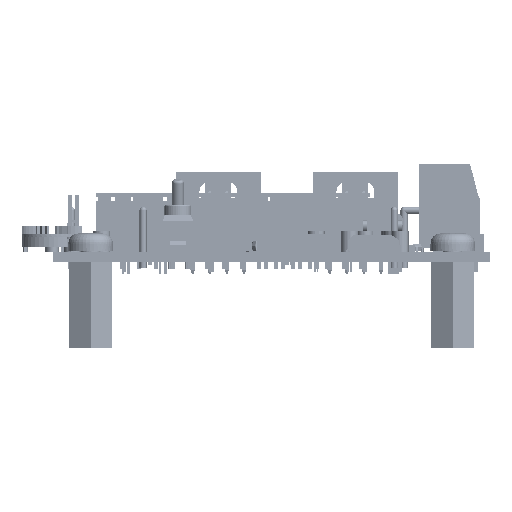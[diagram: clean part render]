
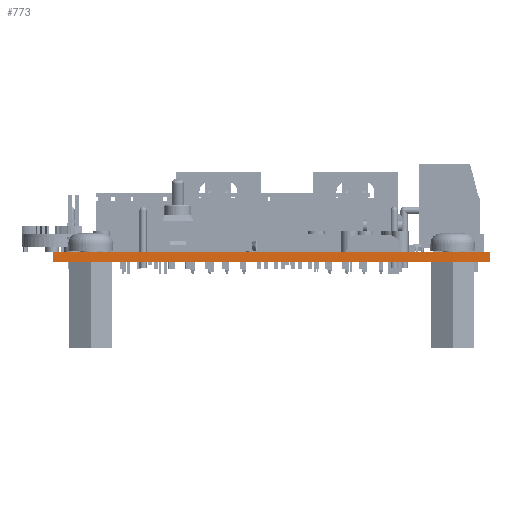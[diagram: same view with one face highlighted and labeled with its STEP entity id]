
A CAD part, left-side view. The second image highlights one B-rep face of the part: STEP entity #773.
In plain terms, the highlighted planar face has unit normal (-1, 0, 0).
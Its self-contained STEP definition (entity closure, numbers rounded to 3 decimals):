
#773 = ADVANCED_FACE('',(#774),#808,.T.);
#774 = FACE_BOUND('',#775,.T.);
#775 = EDGE_LOOP('',(#776,#786,#794,#802));
#776 = ORIENTED_EDGE('',*,*,#777,.T.);
#777 = EDGE_CURVE('',#778,#780,#782,.T.);
#778 = VERTEX_POINT('',#779);
#779 = CARTESIAN_POINT('',(0.032,0.,0.));
#780 = VERTEX_POINT('',#781);
#781 = CARTESIAN_POINT('',(0.032,0.,1.585));
#782 = LINE('',#783,#784);
#783 = CARTESIAN_POINT('',(0.032,0.,0.));
#784 = VECTOR('',#785,1.);
#785 = DIRECTION('',(0.,0.,1.));
#786 = ORIENTED_EDGE('',*,*,#787,.T.);
#787 = EDGE_CURVE('',#780,#788,#790,.T.);
#788 = VERTEX_POINT('',#789);
#789 = CARTESIAN_POINT('',(0.032,64.77,1.585));
#790 = LINE('',#791,#792);
#791 = CARTESIAN_POINT('',(0.032,0.,1.585));
#792 = VECTOR('',#793,1.);
#793 = DIRECTION('',(0.,1.,0.));
#794 = ORIENTED_EDGE('',*,*,#795,.F.);
#795 = EDGE_CURVE('',#796,#788,#798,.T.);
#796 = VERTEX_POINT('',#797);
#797 = CARTESIAN_POINT('',(0.032,64.77,0.));
#798 = LINE('',#799,#800);
#799 = CARTESIAN_POINT('',(0.032,64.77,0.));
#800 = VECTOR('',#801,1.);
#801 = DIRECTION('',(0.,0.,1.));
#802 = ORIENTED_EDGE('',*,*,#803,.F.);
#803 = EDGE_CURVE('',#778,#796,#804,.T.);
#804 = LINE('',#805,#806);
#805 = CARTESIAN_POINT('',(0.032,0.,0.));
#806 = VECTOR('',#807,1.);
#807 = DIRECTION('',(0.,1.,0.));
#808 = PLANE('',#809);
#809 = AXIS2_PLACEMENT_3D('',#810,#811,#812);
#810 = CARTESIAN_POINT('',(0.032,0.,0.));
#811 = DIRECTION('',(-1.,0.,0.));
#812 = DIRECTION('',(0.,1.,0.));
